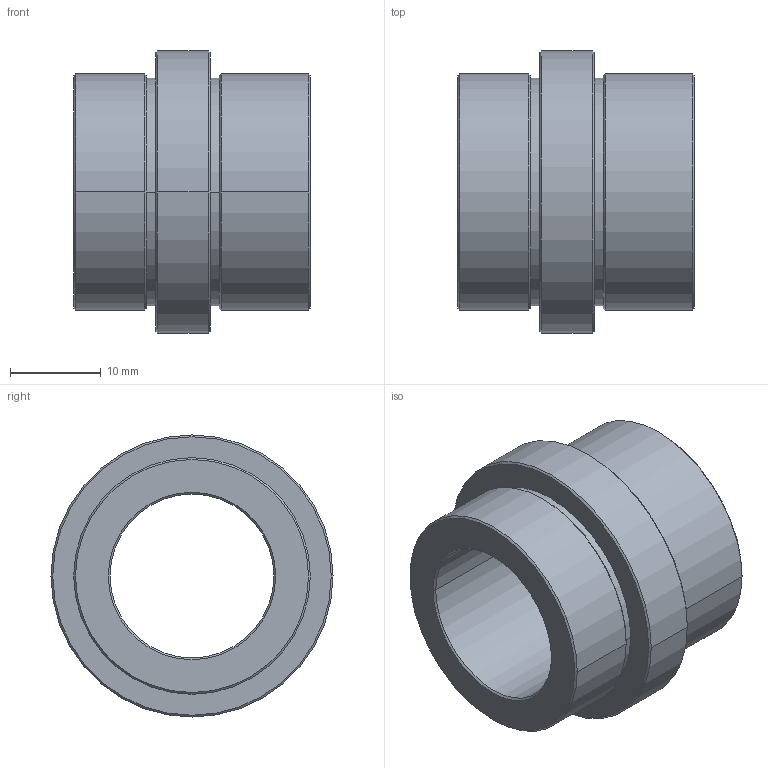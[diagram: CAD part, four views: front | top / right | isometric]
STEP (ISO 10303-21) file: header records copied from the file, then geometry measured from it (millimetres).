
FILE_DESCRIPTION (( 'STEP AP214' ), '1' );
FILE_NAME ('R04_017x18.STEP', '2015-03-05T14:58:42', ( 'TGL' ), ( '' ), 'SwSTEP 2.0', 'SolidWorks 2011', '' );
FILE_SCHEMA (( 'AUTOMOTIVE_DESIGN' ));
Length unit declared in the file: millimetre
Products named in the file (1): R04_017x18
Bounding box: 26 x 31 x 31 mm (x, y, z)
Volume: 8354 mm3; surface area: 4715.3 mm2
Topology: 1 solids, 1 shells, 34 faces, 68 edges, 40 vertices
Faces by surface type: cone 14, cylinder 12, plane 6, torus 2
Entity records: 924 total; most frequent: DIRECTION 180, CARTESIAN_POINT 143, ORIENTED_EDGE 136, AXIS2_PLACEMENT_3D 77, EDGE_CURVE 68, CIRCLE 42, EDGE_LOOP 40, VERTEX_POINT 40
